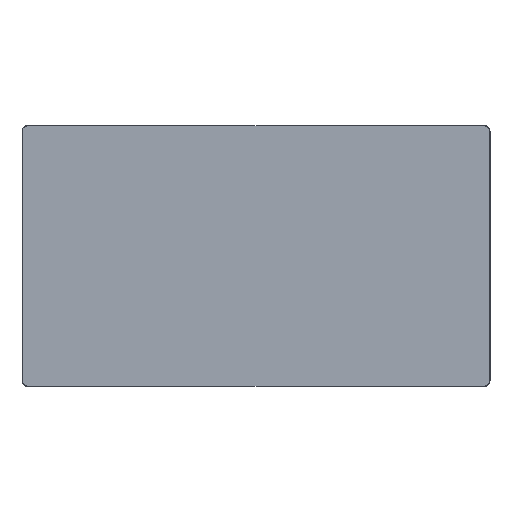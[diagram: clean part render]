
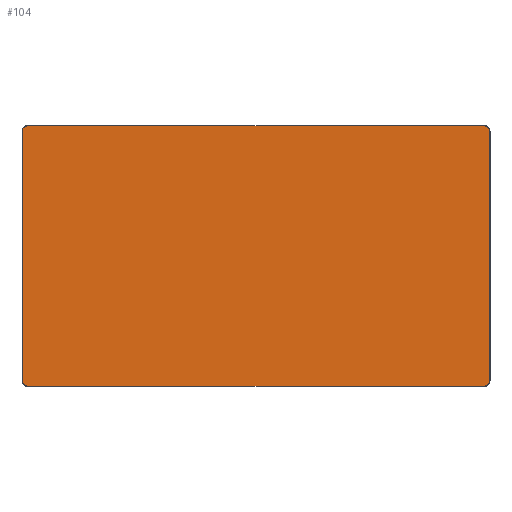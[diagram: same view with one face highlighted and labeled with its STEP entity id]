
A CAD part, top view. The second image highlights one B-rep face of the part: STEP entity #104.
In plain terms, the highlighted planar face has unit normal (0, 0, 1).
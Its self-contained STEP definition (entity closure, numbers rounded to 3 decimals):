
#104=ADVANCED_FACE('',(#410),#4426,.T.);
#410=FACE_OUTER_BOUND('',#716,.T.);
#716=EDGE_LOOP('',(#1085,#1086,#1087,#1088,#1089,#1090,#1091,#1092));
#1085=ORIENTED_EDGE('',*,*,#2454,.F.);
#1086=ORIENTED_EDGE('',*,*,#2434,.F.);
#1087=ORIENTED_EDGE('',*,*,#2450,.F.);
#1088=ORIENTED_EDGE('',*,*,#2436,.F.);
#1089=ORIENTED_EDGE('',*,*,#2445,.F.);
#1090=ORIENTED_EDGE('',*,*,#2435,.F.);
#1091=ORIENTED_EDGE('',*,*,#2439,.F.);
#1092=ORIENTED_EDGE('',*,*,#2433,.F.);
#2433=EDGE_CURVE('',#3789,#3790,#3473,.T.);
#2434=EDGE_CURVE('',#3795,#3791,#3474,.T.);
#2435=EDGE_CURVE('',#3794,#3792,#3475,.T.);
#2436=EDGE_CURVE('',#3793,#3796,#3476,.T.);
#2439=EDGE_CURVE('',#3790,#3794,#3095,.T.);
#2445=EDGE_CURVE('',#3792,#3793,#3101,.T.);
#2450=EDGE_CURVE('',#3796,#3795,#3106,.T.);
#2454=EDGE_CURVE('',#3791,#3789,#3110,.T.);
#3095=(
BOUNDED_CURVE()
B_SPLINE_CURVE(2,(#4977,#4978,#4979),.UNSPECIFIED.,.F.,.F.)
B_SPLINE_CURVE_WITH_KNOTS((3,3),(0.,29.845),
 .UNSPECIFIED.)
CURVE()
GEOMETRIC_REPRESENTATION_ITEM()
RATIONAL_B_SPLINE_CURVE((1.,0.707,1.))
REPRESENTATION_ITEM('')
);
#3101=(
BOUNDED_CURVE()
B_SPLINE_CURVE(2,(#4995,#4996,#4997),.UNSPECIFIED.,.F.,.F.)
B_SPLINE_CURVE_WITH_KNOTS((3,3),(0.,29.845),
 .UNSPECIFIED.)
CURVE()
GEOMETRIC_REPRESENTATION_ITEM()
RATIONAL_B_SPLINE_CURVE((1.,0.707,1.))
REPRESENTATION_ITEM('')
);
#3106=(
BOUNDED_CURVE()
B_SPLINE_CURVE(2,(#5010,#5011,#5012),.UNSPECIFIED.,.F.,.F.)
B_SPLINE_CURVE_WITH_KNOTS((3,3),(0.,29.845),
 .UNSPECIFIED.)
CURVE()
GEOMETRIC_REPRESENTATION_ITEM()
RATIONAL_B_SPLINE_CURVE((1.,0.707,1.))
REPRESENTATION_ITEM('')
);
#3110=(
BOUNDED_CURVE()
B_SPLINE_CURVE(2,(#5022,#5023,#5024),.UNSPECIFIED.,.F.,.F.)
B_SPLINE_CURVE_WITH_KNOTS((3,3),(0.,29.845),
 .UNSPECIFIED.)
CURVE()
GEOMETRIC_REPRESENTATION_ITEM()
RATIONAL_B_SPLINE_CURVE((1.,0.707,1.))
REPRESENTATION_ITEM('')
);
#3473=B_SPLINE_CURVE_WITH_KNOTS('',1,(#4963,#4964),.UNSPECIFIED.,.F.,.F.,
(2,2),(0.,1575.),.UNSPECIFIED.);
#3474=B_SPLINE_CURVE_WITH_KNOTS('',1,(#4965,#4966),.UNSPECIFIED.,.F.,.F.,
(2,2),(0.,860.),.UNSPECIFIED.);
#3475=B_SPLINE_CURVE_WITH_KNOTS('',1,(#4967,#4968),.UNSPECIFIED.,.F.,.F.,
(2,2),(0.,860.),.UNSPECIFIED.);
#3476=B_SPLINE_CURVE_WITH_KNOTS('',1,(#4969,#4970),.UNSPECIFIED.,.F.,.F.,
(2,2),(0.,1575.),.UNSPECIFIED.);
#3789=VERTEX_POINT('',#4891);
#3790=VERTEX_POINT('',#4892);
#3791=VERTEX_POINT('',#4893);
#3792=VERTEX_POINT('',#4894);
#3793=VERTEX_POINT('',#4895);
#3794=VERTEX_POINT('',#4896);
#3795=VERTEX_POINT('',#4897);
#3796=VERTEX_POINT('',#4898);
#4426=PLANE('',#4520);
#4520=AXIS2_PLACEMENT_3D('',#4746,#4597,$);
#4597=DIRECTION('',(0.,0.,1.));
#4746=CARTESIAN_POINT('',(45.778,1450.299,745.));
#4891=CARTESIAN_POINT('',(227.278,2439.299,745.));
#4892=CARTESIAN_POINT('',(1802.278,2439.299,745.));
#4893=CARTESIAN_POINT('',(208.278,2420.299,745.));
#4894=CARTESIAN_POINT('',(1821.278,1560.299,745.));
#4895=CARTESIAN_POINT('',(1802.278,1541.299,745.));
#4896=CARTESIAN_POINT('',(1821.278,2420.299,745.));
#4897=CARTESIAN_POINT('',(208.278,1560.299,745.));
#4898=CARTESIAN_POINT('',(227.278,1541.299,745.));
#4963=CARTESIAN_POINT('',(227.278,2439.299,745.));
#4964=CARTESIAN_POINT('',(1802.278,2439.299,745.));
#4965=CARTESIAN_POINT('',(208.278,1560.299,745.));
#4966=CARTESIAN_POINT('',(208.278,2420.299,745.));
#4967=CARTESIAN_POINT('',(1821.278,2420.299,745.));
#4968=CARTESIAN_POINT('',(1821.278,1560.299,745.));
#4969=CARTESIAN_POINT('',(1802.278,1541.299,745.));
#4970=CARTESIAN_POINT('',(227.278,1541.299,745.));
#4977=CARTESIAN_POINT('',(1802.278,2439.299,745.));
#4978=CARTESIAN_POINT('',(1821.278,2439.299,745.));
#4979=CARTESIAN_POINT('',(1821.278,2420.299,745.));
#4995=CARTESIAN_POINT('',(1821.278,1560.299,745.));
#4996=CARTESIAN_POINT('',(1821.278,1541.299,745.));
#4997=CARTESIAN_POINT('',(1802.278,1541.299,745.));
#5010=CARTESIAN_POINT('',(227.278,1541.299,745.));
#5011=CARTESIAN_POINT('',(208.278,1541.299,745.));
#5012=CARTESIAN_POINT('',(208.278,1560.299,745.));
#5022=CARTESIAN_POINT('',(208.278,2420.299,745.));
#5023=CARTESIAN_POINT('',(208.278,2439.299,745.));
#5024=CARTESIAN_POINT('',(227.278,2439.299,745.));
